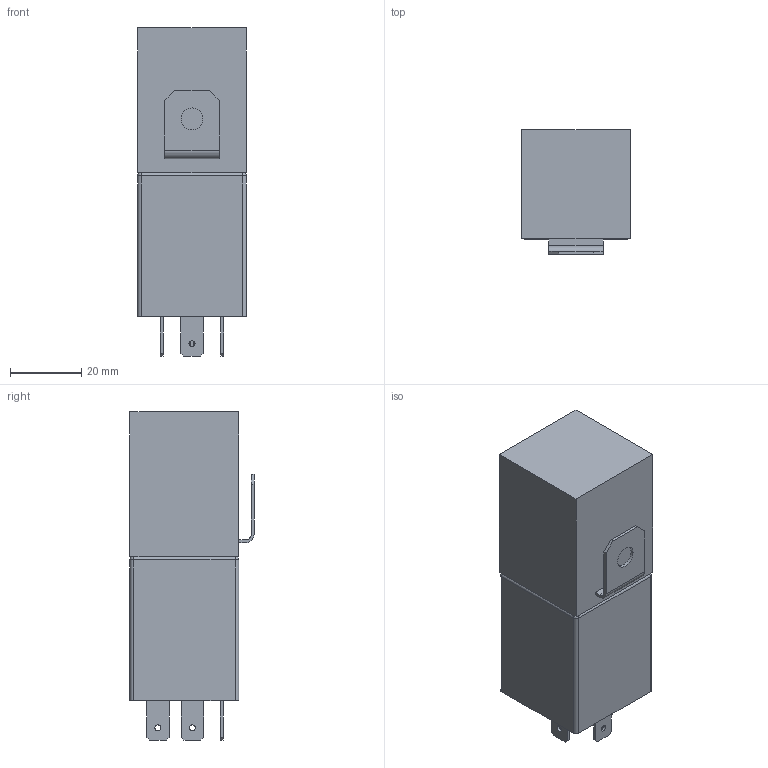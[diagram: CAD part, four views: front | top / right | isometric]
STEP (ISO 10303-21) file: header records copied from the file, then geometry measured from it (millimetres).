
FILE_DESCRIPTION(('CATIA V5 STEP Exchange','CAx-IF Rec.Pracs.--- Model Styling and Organization---1.5--- 2016-08-15','CAx-IF Rec.Pracs.---Supplemental Geometry---1.0---2011-11-01','CAx-IF Rec.Pracs.--- Composite Materials ---1.1---2010-07-15'),'2;1');
FILE_NAME('E:\tmp\ddx\2011226\HELLA_3D_data_LED_flasher_unit_4DW-009-492-11.stp','2022-01-18T07:40:18+00:00',('none'),('none'),'CATIA Version 5-6 Release 2020 SP3 HF9','CATIA V5 STEP AP214 Edition 3 v2','none');
FILE_SCHEMA(('AUTOMOTIVE_DESIGN { 1 0 10303 214 3 1 1 1 }'));
Length unit declared in the file: millimetre
Products named in the file (1): 10001091391_D10_001
Bounding box: 30.5 x 34.8 x 92 mm (x, y, z)
Volume: 75739.7 mm3; surface area: 13111.8 mm2
Topology: 1 solids, 1 shells, 72 faces, 184 edges, 116 vertices
Faces by surface type: plane 48, cylinder 20, sphere 4
Entity records: 2087 total; most frequent: ORIENTED_EDGE 360, CARTESIAN_POINT 356, DIRECTION 298, EDGE_CURVE 180, VECTOR 140, LINE 140, VERTEX_POINT 116, AXIS2_PLACEMENT_3D 100
